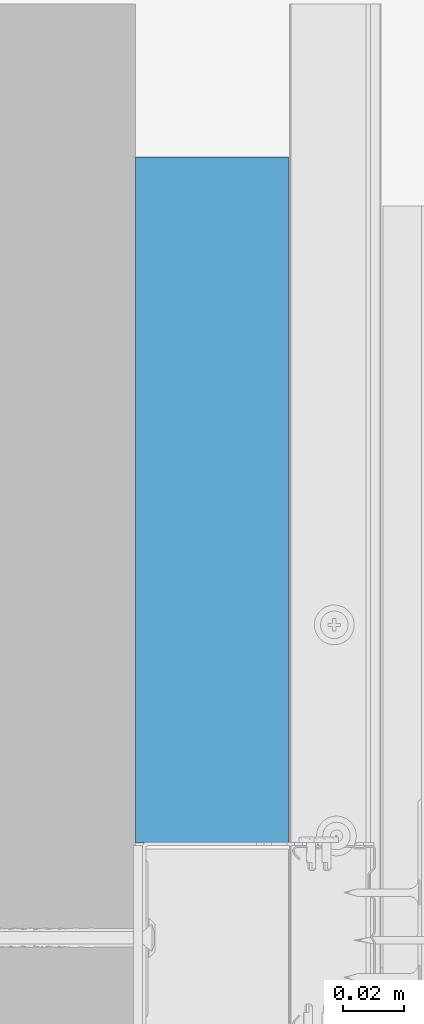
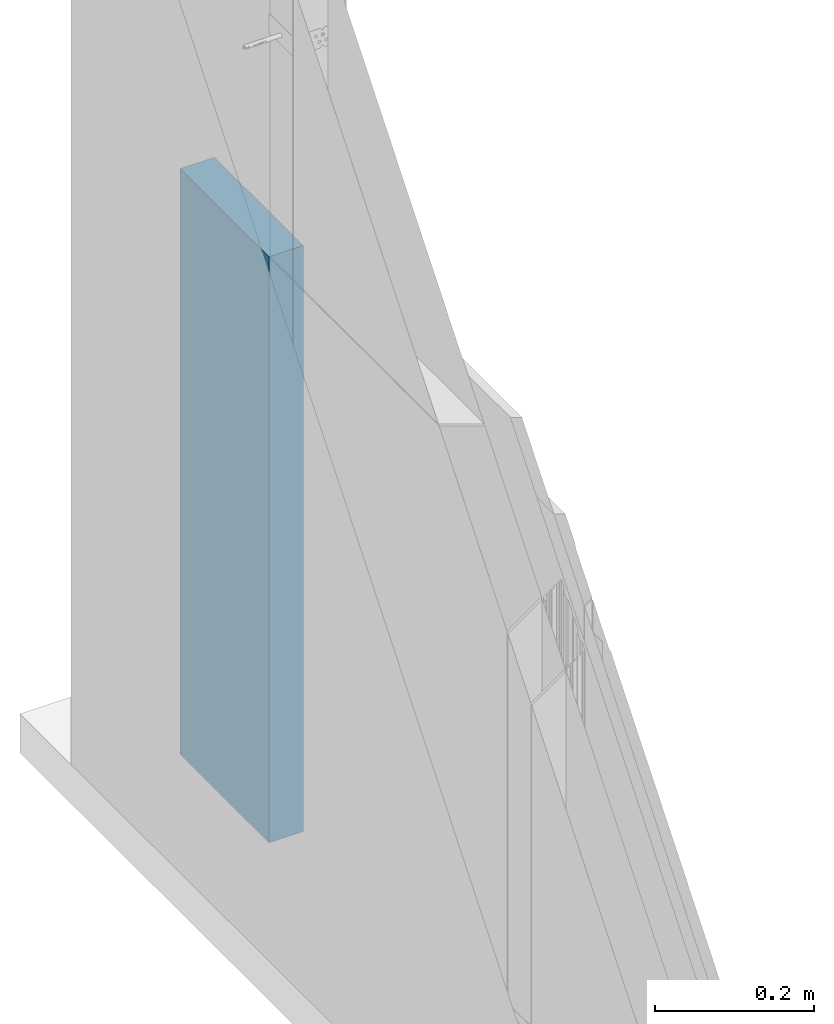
# One storey, part 9 of 62: 1 wall.
"""IFC2X3 building model written with IfcOpenShell, lengths in millimetres."""

import ifcopenshell
import ifcopenshell.guid

model = None  # the IFC model being written
_history = None  # IfcOwnerHistory: only IFC2X3 demands one
_inside = {}  # id of a spatial element -> (the spatial element, [elements in it])
_under = {}  # id of a project, library or spatial element -> (it, [spatial elements below it])
_declared = {}  # id of a project -> (the project, [libraries it declares])
_typed = {}  # id of a type object -> (the type object, [elements of that type])
_made_of = {}  # id of a material, layer set ... -> (it, [elements and type objects made of it])


def new_model(schema):
    """Start an empty IFC model of exactly this schema.

    Asked for "IFC4X3", IfcOpenShell would pick the latest addendum, in which some entities
    have other attributes; the version numbers below select the first issue.
    IFC2X3 requires an IfcOwnerHistory on every rooted entity: one is made here for all.
    """
    global model, _history
    if schema == "IFC4X3":
        model = ifcopenshell.file(schema_version=(4, 3, 0, 0))
    else:
        model = ifcopenshell.file(schema=schema)
    _inside.clear()
    _under.clear()
    _declared.clear()
    _typed.clear()
    _made_of.clear()
    _history = None
    if model.schema == "IFC2X3":
        org = make("IfcOrganization", Name="unknown")
        user = make(
            "IfcPersonAndOrganization",
            ThePerson=make("IfcPerson", FamilyName="unknown"),
            TheOrganization=org,
        )
        app = make(
            "IfcApplication",
            ApplicationDeveloper=org,
            Version="unknown",
            ApplicationFullName="unknown",
            ApplicationIdentifier="unknown",
        )
        _history = make(
            "IfcOwnerHistory",
            OwningUser=user,
            OwningApplication=app,
            ChangeAction="ADDED",
            CreationDate=0,
        )
    return model


def make(cls, **values):
    """One entity of the class cls with the attributes given. An attribute that is None is left unset."""
    return model.create_entity(
        cls, **{name: value for name, value in values.items() if value is not None}
    )


def rooted(cls, **values):
    """An entity with a GlobalId (a new one), such as an element, a storey or a relation."""
    return make(cls, GlobalId=ifcopenshell.guid.new(), OwnerHistory=_history, **values)


def si_unit(unit_type, name, prefix=None):
    """IfcSIUnit, for example si_unit("LENGTHUNIT", "METRE", prefix="MILLI")."""
    return make("IfcSIUnit", UnitType=unit_type, Prefix=prefix, Name=name)


def assignment(units):
    """IfcUnitAssignment: the units of a project."""
    return None if units is None else make("IfcUnitAssignment", Units=units)


def point(xyz):
    """IfcCartesianPoint."""
    return None if xyz is None else make("IfcCartesianPoint", Coordinates=xyz)


def direction(xyz):
    """IfcDirection."""
    return None if xyz is None else make("IfcDirection", DirectionRatios=xyz)


def frame(location, z_axis=None, x_axis=None):
    """IfcAxis2Placement3D, a coordinate frame: its origin and axes. An axis left out is left unset."""
    return make(
        "IfcAxis2Placement3D",
        Location=point(location),
        Axis=direction(z_axis),
        RefDirection=direction(x_axis),
    )


def origin_with_axes():
    """The frame at (0, 0, 0) with the z axis (0, 0, 1) and the x axis (1, 0, 0) written out."""
    return frame((0.0, 0.0, 0.0), z_axis=(0.0, 0.0, 1.0), x_axis=(1.0, 0.0, 0.0))


def place(relative_to, where):
    """IfcLocalPlacement: puts the frame where relative to a parent placement (None: the world)."""
    return make(
        "IfcLocalPlacement", PlacementRelTo=relative_to, RelativePlacement=where
    )


def context(
    kind, dimensions, precision=None, world=None, true_north=None, identifier=None
):
    """IfcGeometricRepresentationContext, for example the 3D "Model" context."""
    return make(
        "IfcGeometricRepresentationContext",
        ContextIdentifier=identifier,
        ContextType=kind,
        CoordinateSpaceDimension=dimensions,
        Precision=precision,
        WorldCoordinateSystem=world,
        TrueNorth=true_north,
    )


def subcontext(parent, identifier, kind, view, scale=None):
    """IfcGeometricRepresentationSubContext, for example "Body" below "Model"."""
    return make(
        "IfcGeometricRepresentationSubContext",
        ContextIdentifier=identifier,
        ContextType=kind,
        ParentContext=parent,
        TargetScale=scale,
        TargetView=view,
    )


def project(units=None, contexts=None):
    """IfcProject with its units and contexts."""
    return rooted(
        "IfcProject",
        Name="project",
        RepresentationContexts=contexts,
        UnitsInContext=assignment(units),
    )


def spatial(cls, under=None, at=None, **own):
    """A site, building, storey or space (cls), placed at a placement, below another one or the project."""
    s = rooted(cls, ObjectPlacement=at, **own)
    if under is not None:
        _under.setdefault(under.id(), (under, []))[1].append(s)
    return s


def faces_of(points, faces, orient=None, outer=None):
    """IfcFace entities. A face is a list of loops; a loop is a list of indices into points, from 0.

    orient and outer hold one flag for each loop. By default every Orientation is true, the
    first loop of a face is its IfcFaceOuterBound and the others are IfcFaceBound.
    """
    made = []
    for i, loops in enumerate(faces):
        bounds = []
        for j, loop in enumerate(loops):
            is_outer = j == 0 if outer is None else outer[i][j]
            bounds.append(
                make(
                    "IfcFaceOuterBound" if is_outer else "IfcFaceBound",
                    Bound=make("IfcPolyLoop", Polygon=[points[k] for k in loop]),
                    Orientation=True if orient is None else orient[i][j],
                )
            )
        made.append(make("IfcFace", Bounds=bounds))
    return made


def faceted_brep(points, faces, orient=None, outer=None, voids=None):
    """IfcFacetedBrep: a solid bounded by flat faces; with voids (closed shells), ...WithVoids."""
    shared = [point(p) for p in points]
    hull = make("IfcClosedShell", CfsFaces=faces_of(shared, faces, orient, outer))
    if voids is None:
        return make("IfcFacetedBrep", Outer=hull)
    return make(
        "IfcFacetedBrepWithVoids",
        Outer=hull,
        Voids=[
            make(cls, CfsFaces=faces_of(shared, fs, o, b)) for cls, fs, o, b in voids
        ],
    )


def shape(context_of_items, identifier, shape_type, items):
    """IfcShapeRepresentation: the items that make up one representation, for example the "Body"."""
    return make(
        "IfcShapeRepresentation",
        ContextOfItems=context_of_items,
        RepresentationIdentifier=identifier,
        RepresentationType=shape_type,
        Items=items,
    )


def material(Name=None, Category=None):
    """IfcMaterial."""
    return make("IfcMaterial", Name=Name, Category=Category)


def made_of(thing, what):
    """Note that an element or type object is made of a material, layer set ...; save() writes the relation."""
    if what is not None:
        _made_of.setdefault(what.id(), (what, []))[1].append(thing)
    return thing


def type_object(cls, material=None, **own):
    """A type object (cls), such as IfcWallType, which elements share."""
    return made_of(rooted(cls, **own), material)


def element(
    cls,
    number,
    at=None,
    inside=None,
    cuts=None,
    type_object=None,
    material=None,
    context=None,
    identifier="Body",
    shape_type=None,
    held_by="IfcProductDefinitionShape",
    body=None,
    shapes=None,
    **own,
):
    """One element of the class cls, such as IfcWall. Its Tag is "e" and its number.

    at: its placement. inside: the storey or other place that contains it. cuts: it is an
    opening in that element (IfcRelVoidsElement). A single representation is given by context,
    identifier, shape_type and body (its items); several are given by shapes. held_by: the class
    of the entity that holds the representations. save() writes the other relations.
    """
    e = rooted(cls, Tag="e%d" % number, ObjectPlacement=at, **own)
    if body is not None:
        shapes = [shape(context, identifier, shape_type, body)]
    if shapes is not None:
        e.Representation = make(held_by, Representations=shapes)
    if inside is not None:
        _inside.setdefault(inside.id(), (inside, []))[1].append(e)
    if cuts is not None:
        rooted(
            "IfcRelVoidsElement", RelatingBuildingElement=cuts, RelatedOpeningElement=e
        )
    if type_object is not None:
        _typed.setdefault(type_object.id(), (type_object, []))[1].append(e)
    return made_of(e, material)


def aggregate(whole, parts):
    """IfcRelAggregates: a whole, such as a stair, and the parts it consists of."""
    return rooted("IfcRelAggregates", RelatingObject=whole, RelatedObjects=parts)


def save(model, path):
    """Write the relations noted so far, then the file.

    IfcRelAggregates (storeys below a building ...), IfcRelContainedInSpatialStructure (elements
    in a storey), IfcRelDefinesByType, IfcRelAssociatesMaterial and IfcRelDeclares: one each for
    every whole, place, type object, material and project.
    """
    for whole, parts in _under.values():
        aggregate(whole, parts)
    for where, things in _inside.values():
        rooted(
            "IfcRelContainedInSpatialStructure",
            RelatedElements=things,
            RelatingStructure=where,
        )
    for kind, things in _typed.values():
        rooted("IfcRelDefinesByType", RelatedObjects=things, RelatingType=kind)
    for what, things in _made_of.values():
        rooted("IfcRelAssociatesMaterial", RelatedObjects=things, RelatingMaterial=what)
    for by, libraries in _declared.values():
        rooted("IfcRelDeclares", RelatingContext=by, RelatedDefinitions=libraries)
    model.write(path)


model = new_model("IFC2X3")

# Units and contexts
model_context = context("Model", 3, world=origin_with_axes())
body_context = subcontext(model_context, "Body", "Model", "MODEL_VIEW")
ifc_project = project(units=[si_unit("LENGTHUNIT", "METRE", prefix="MILLI"), si_unit("AREAUNIT", "SQUARE_METRE"), si_unit("VOLUMEUNIT", "CUBIC_METRE")], contexts=[model_context])

# Site, building, storey
site_placement = place(None, frame((2152.14102611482, -2015.0250894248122, 57.61556563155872), z_axis=(0.0, 0.0, 1.0), x_axis=(-1.1102230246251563e-16, 1.0, 0.0)))
site = spatial("IfcSite", under=ifc_project, at=site_placement, Name="Default Site", CompositionType="ELEMENT")
building_placement = place(site_placement, origin_with_axes())
building = spatial("IfcBuilding", under=site, at=building_placement, Name="Default Building", CompositionType="ELEMENT")
storey_placement = place(building_placement, origin_with_axes())
storey = spatial("IfcBuildingStorey", under=building, at=storey_placement, Name="Default Building Storey", CompositionType="ELEMENT", Elevation=57.61556563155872)

# Wall
ifc_material = material(Name="Undefined")
wall_type = type_object("IfcWallType", Name="Wypełnienie z wełny mineralnej szklanej ISOVER#6", PredefinedType="NOTDEFINED")
wall_placement = place(storey_placement, frame((3288.472020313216, 5350.424146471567, -7.900000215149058), z_axis=(0.0, 0.0, 1.0), x_axis=(-1.0, 4.718447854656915e-16, 0.0)))
element("IfcWall", 1, at=wall_placement, inside=storey, type_object=wall_type, material=ifc_material, Name="Wypełnienie z wełny mineralnej szklanej ISOVER", context=body_context, shape_type="Brep", body=[
    faceted_brep([(-180.46054244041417, 3328.283263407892, 10.284026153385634), (-180.46054244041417, 3378.283262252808, 10.284026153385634), (-180.46054244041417, 3378.283262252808, 911.543607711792), (-180.46054244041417, 3328.283263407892, 911.543607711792), (-404.5686125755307, 3378.283262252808, 911.543607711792), (-404.5686125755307, 3378.283262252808, 10.284026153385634), (-404.5686125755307, 3328.283263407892, 10.284026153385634), (-404.5686125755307, 3328.283263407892, 911.543607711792)], [[[0, 1, 2, 3]], [[4, 2, 1, 5]], [[5, 1, 0, 6]], [[6, 0, 3, 7]]]),
    faceted_brep([(-404.5686125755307, 3328.283263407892, 911.543607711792), (-404.5686125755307, 3378.283262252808, 911.543607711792), (-404.5686125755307, 3378.283262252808, 10.284026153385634), (-404.5686125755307, 3328.283263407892, 10.284026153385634), (-180.46054244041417, 3328.283263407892, 911.543607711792), (-180.46054244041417, 3378.283262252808, 911.543607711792)], [[[0, 1, 2, 3]], [[0, 4, 5, 1]]]),
])

save(model, "model.ifc")
